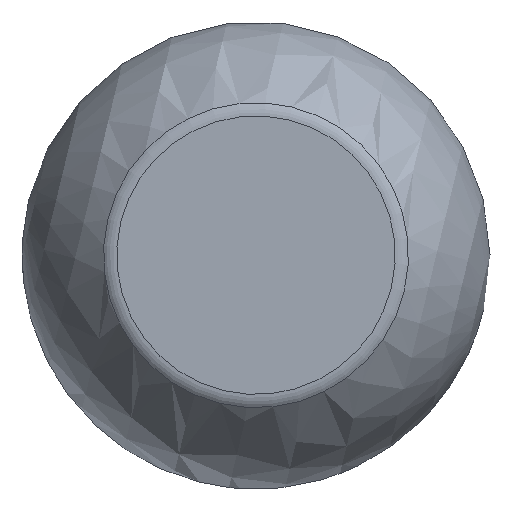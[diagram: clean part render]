
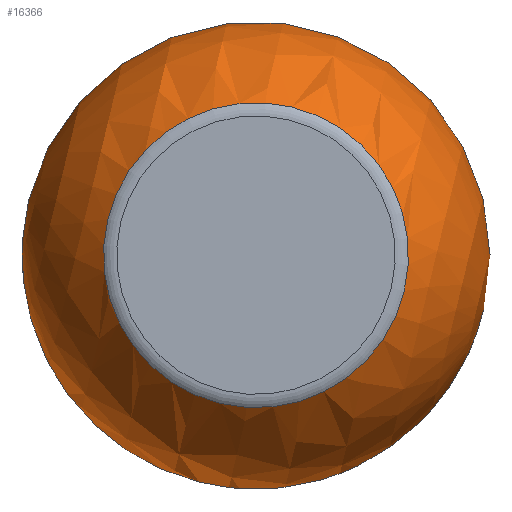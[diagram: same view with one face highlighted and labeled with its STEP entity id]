
A CAD part, top view. The second image highlights one B-rep face of the part: STEP entity #16366.
In plain terms, the highlighted spherical face has radius 18.326 mm.
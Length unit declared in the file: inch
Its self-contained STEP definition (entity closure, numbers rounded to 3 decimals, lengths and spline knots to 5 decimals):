
#2864=SPHERICAL_SURFACE('',#17434,0.7215);
#3413=CIRCLE('',#17433,0.47012);
#3414=CIRCLE('',#17435,0.40377);
#3918=FACE_BOUND('',#5062,.T.);
#3919=FACE_BOUND('',#5063,.T.);
#5062=EDGE_LOOP('',(#11228));
#5063=EDGE_LOOP('',(#11229));
#6996=VERTEX_POINT('',#21931);
#6997=VERTEX_POINT('',#21934);
#8690=EDGE_CURVE('',#6996,#6996,#3413,.T.);
#8691=EDGE_CURVE('',#6997,#6997,#3414,.T.);
#11228=ORIENTED_EDGE('',*,*,#8690,.T.);
#11229=ORIENTED_EDGE('',*,*,#8691,.F.);
#16366=ADVANCED_FACE('',(#3918,#3919),#2864,.T.);
#17433=AXIS2_PLACEMENT_3D('',#21932,#18531,#18532);
#17434=AXIS2_PLACEMENT_3D('',#21933,#18533,#18534);
#17435=AXIS2_PLACEMENT_3D('',#21935,#18535,#18536);
#18531=DIRECTION('center_axis',(1.,0.,0.));
#18532=DIRECTION('ref_axis',(0.,0.,-1.));
#18533=DIRECTION('center_axis',(0.,0.,1.));
#18534=DIRECTION('ref_axis',(1.,0.,0.));
#18535=DIRECTION('center_axis',(1.,0.,0.));
#18536=DIRECTION('ref_axis',(0.,0.,-1.));
#21931=CARTESIAN_POINT('',(0.01509,0.47012,0.));
#21932=CARTESIAN_POINT('Origin',(0.01509,0.,0.));
#21933=CARTESIAN_POINT('Origin',(0.5624,0.,0.));
#21934=CARTESIAN_POINT('',(1.16034,0.40377,0.));
#21935=CARTESIAN_POINT('Origin',(1.16034,0.,0.));
